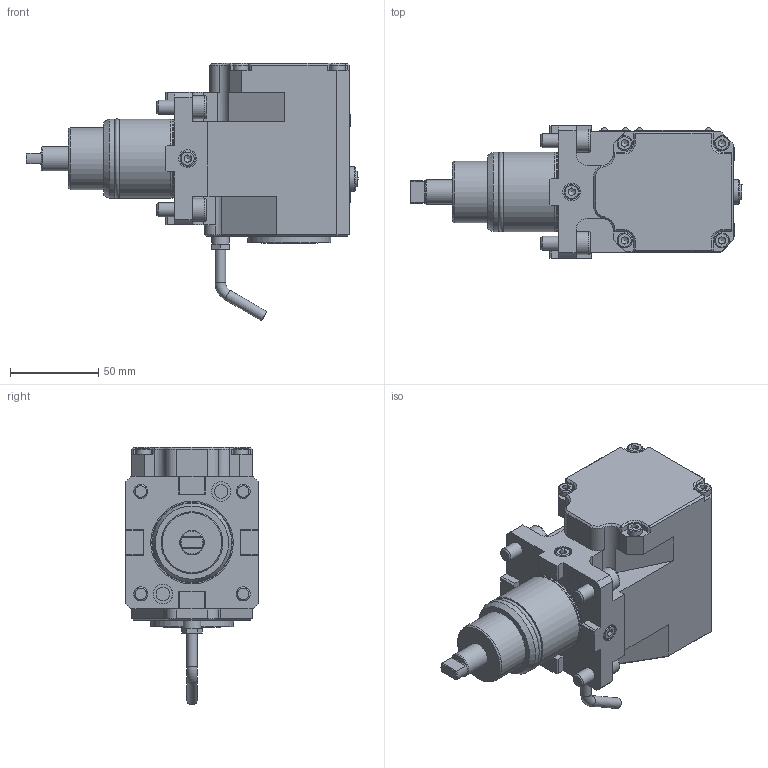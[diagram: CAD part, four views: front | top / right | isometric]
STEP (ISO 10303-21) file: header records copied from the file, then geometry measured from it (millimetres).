
FILE_DESCRIPTION(/* description */ (''),/* implementation_level */ '2;1');
FILE_NAME(/* name */ '197598-UNI',/* time_stamp */ '2022-07-19T13:48:57+02:00',/* author */ (''),/* organization */ (''),/* preprocessor_version */ 'ST-DEVELOPER v16.5',/* originating_system */ 'HiCAD 2017 2201.0 Build 268',/* authorisation */ '');
FILE_SCHEMA (('AUTOMOTIVE_DESIGN { 1 0 10303 214 1 1 1 1 }'));
Products named in the file (8): Root; Teil; Skizze; 786.19348.106.0_dummy
Assembly tree (7 placements, depth 3):
  Root
    Teil
      Skizze
      Skizze
      Skizze
      Skizze
      Skizze
      786.19348.106.0_dummy
Bounding box: 187.9 x 75 x 145.73 mm (x, y, z)
Volume: 675295.5 mm3; surface area: 70526.8 mm2
Topology: 19 solids, 35 shells, 982 faces, 2406 edges, 1546 vertices
Faces by surface type: plane 613, cylinder 135, bspline 87, cone 82, torus 57, sphere 8
Full cylindrical faces by diameter (mm): 2 x8, 2.2 x8, 4 x2, 4.019 x4, 5.5 x8, 6 x2, 7 x4, 7.65 x2, 8 x4, 8.5 x8, 9 x1, 10 x5, 10.8 x1, 11.01 x2, 11.1 x1, 12 x1, 12.4 x1, 13 x4, 13.8 x1, 14 x1, 25.2 x1, 32 x1, 35 x1, 40 x1, 41.2 x2, 44.5 x1, 44.9 x2, 47 x1
Entity records: 60105 total; most frequent: CARTESIAN_POINT 16809, PRESENTATION_STYLE_ASSIGNMENT 4399, DRAUGHTING_PRE_DEFINED_CURVE_FONT 4398, CURVE_STYLE 4398, OVER_RIDING_STYLED_ITEM 4398, ORIENTED_EDGE 4398, COLOUR_RGB 4346, DIRECTION 4272
